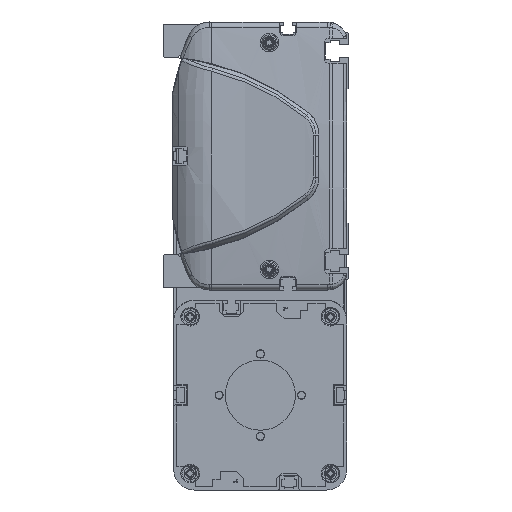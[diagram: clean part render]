
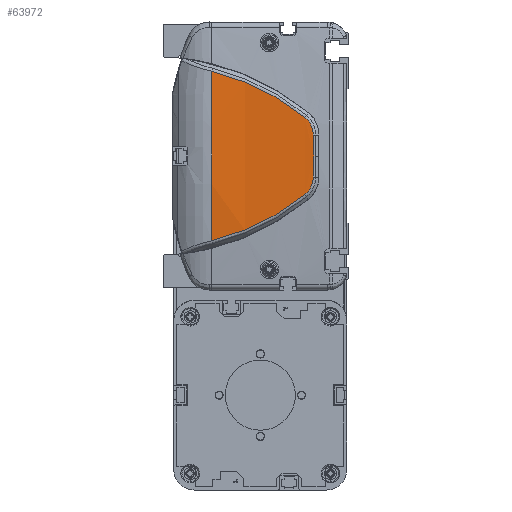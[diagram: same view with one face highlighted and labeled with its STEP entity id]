
A CAD part, left-side view. The second image highlights one B-rep face of the part: STEP entity #63972.
In plain terms, the highlighted cylindrical face has radius 500 mm (diameter 1000 mm), a partial arc.
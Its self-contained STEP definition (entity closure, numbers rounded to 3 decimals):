
#60224=CARTESIAN_POINT('',(-714.,66.962,0.));
#60225=DIRECTION('',(0.,-1.,0.));
#60226=DIRECTION('',(-0.997,0.,0.082));
#60227=AXIS2_PLACEMENT_3D('',#60224,#60225,#60226);
#61107=CARTESIAN_POINT('',(-1213.648,21.913,
-18.759));
#61108=CARTESIAN_POINT('',(-1213.449,28.504,
-24.058));
#61109=CARTESIAN_POINT('',(-1212.934,42.795,
-33.27));
#61110=CARTESIAN_POINT('',(-1212.471,58.756,
-39.127));
#61111=CARTESIAN_POINT('',(-1212.306,66.962,
-41.121));
#61113=CARTESIAN_POINT('',(-1212.306,66.962,
41.121));
#61114=CARTESIAN_POINT('',(-1212.471,58.756,
39.127));
#61115=CARTESIAN_POINT('',(-1212.934,42.795,
33.27));
#61116=CARTESIAN_POINT('',(-1213.449,28.504,
24.058));
#61117=CARTESIAN_POINT('',(-1213.648,21.913,
18.759));
#61119=CARTESIAN_POINT('',(-1213.648,21.913,
18.759));
#61120=CARTESIAN_POINT('',(-1213.686,20.635,
17.736));
#61121=CARTESIAN_POINT('',(-1213.779,18.536,
15.107));
#61122=CARTESIAN_POINT('',(-1213.863,17.752,
11.827));
#61123=CARTESIAN_POINT('',(-1213.896,17.724,
10.178));
#61125=CARTESIAN_POINT('',(-1213.896,17.724,
10.178));
#61126=CARTESIAN_POINT('',(-1213.92,17.707,
9.026));
#61127=CARTESIAN_POINT('',(-1213.959,17.667,
6.735));
#61128=CARTESIAN_POINT('',(-1213.993,17.58,
3.341));
#61129=CARTESIAN_POINT('',(-1214.,17.498,
1.108));
#61130=CARTESIAN_POINT('',(-1214.,17.449,
0.));
#61132=CARTESIAN_POINT('',(-1214.,17.449,
0.));
#61133=CARTESIAN_POINT('',(-1214.,17.498,
-1.108));
#61134=CARTESIAN_POINT('',(-1213.993,17.58,
-3.341));
#61135=CARTESIAN_POINT('',(-1213.959,17.667,
-6.734));
#61136=CARTESIAN_POINT('',(-1213.92,17.707,
-9.028));
#61137=CARTESIAN_POINT('',(-1213.896,17.724,
-10.18));
#61139=CARTESIAN_POINT('',(-1213.896,17.724,
-10.18));
#61140=CARTESIAN_POINT('',(-1213.863,17.752,
-11.828));
#61141=CARTESIAN_POINT('',(-1213.779,18.537,
-15.109));
#61142=CARTESIAN_POINT('',(-1213.686,20.635,
-17.736));
#61143=CARTESIAN_POINT('',(-1213.648,21.913,
-18.759));
#61794=VERTEX_POINT('',#61107);
#61795=VERTEX_POINT('',#61111);
#61796=CARTESIAN_POINT('',(-1212.306,66.962,
41.121));
#61797=VERTEX_POINT('',#61796);
#61798=VERTEX_POINT('',#61117);
#61799=VERTEX_POINT('',#61123);
#61800=VERTEX_POINT('',#61130);
#61801=VERTEX_POINT('',#61137);
#63953=CARTESIAN_POINT('',(-714.,8.606,0.));
#63954=DIRECTION('',(0.,1.,0.));
#63955=DIRECTION('',(1.,0.,0.));
#63956=AXIS2_PLACEMENT_3D('',#63953,#63954,#63955);
#63957=CYLINDRICAL_SURFACE('',#63956,500.);
#63959=ORIENTED_EDGE('',*,*,#63958,.T.);
#63960=ORIENTED_EDGE('',*,*,#62596,.F.);
#63962=ORIENTED_EDGE('',*,*,#63961,.T.);
#63964=ORIENTED_EDGE('',*,*,#63963,.T.);
#63966=ORIENTED_EDGE('',*,*,#63965,.T.);
#63968=ORIENTED_EDGE('',*,*,#63967,.T.);
#63969=ORIENTED_EDGE('',*,*,#63943,.T.);
#63970=EDGE_LOOP('',(#63959,#63960,#63962,#63964,#63966,#63968,#63969));
#63971=FACE_OUTER_BOUND('',#63970,.F.);
#63972=ADVANCED_FACE('',(#63971),#63957,.T.);
#60228=CIRCLE('',#60227,500.);
#61112=B_SPLINE_CURVE_WITH_KNOTS('',3,(#61107,#61108,#61109,#61110,#61111),
.UNSPECIFIED.,.F.,.F.,(4,1,4),(0.,0.5,1.),.UNSPECIFIED.);
#61118=B_SPLINE_CURVE_WITH_KNOTS('',3,(#61113,#61114,#61115,#61116,#61117),
.UNSPECIFIED.,.F.,.F.,(4,1,4),(0.,0.5,1.),.UNSPECIFIED.);
#61124=B_SPLINE_CURVE_WITH_KNOTS('',3,(#61119,#61120,#61121,#61122,#61123),
.UNSPECIFIED.,.F.,.F.,(4,1,4),(0.,0.5,1.),.UNSPECIFIED.);
#61131=B_SPLINE_CURVE_WITH_KNOTS('',3,(#61125,#61126,#61127,#61128,#61129,
#61130),.UNSPECIFIED.,.F.,.F.,(4,1,1,4),(0.,0.333,
0.667,1.),.UNSPECIFIED.);
#61138=B_SPLINE_CURVE_WITH_KNOTS('',3,(#61132,#61133,#61134,#61135,#61136,
#61137),.UNSPECIFIED.,.F.,.F.,(4,1,1,4),(0.,0.333,
0.667,1.),.UNSPECIFIED.);
#61144=B_SPLINE_CURVE_WITH_KNOTS('',3,(#61139,#61140,#61141,#61142,#61143),
.UNSPECIFIED.,.F.,.F.,(4,1,4),(0.,0.5,1.),.UNSPECIFIED.);
#62596=EDGE_CURVE('',#61797,#61795,#60228,.T.);
#63943=EDGE_CURVE('',#61801,#61794,#61144,.T.);
#63958=EDGE_CURVE('',#61794,#61795,#61112,.T.);
#63961=EDGE_CURVE('',#61797,#61798,#61118,.T.);
#63963=EDGE_CURVE('',#61798,#61799,#61124,.T.);
#63965=EDGE_CURVE('',#61799,#61800,#61131,.T.);
#63967=EDGE_CURVE('',#61800,#61801,#61138,.T.);
